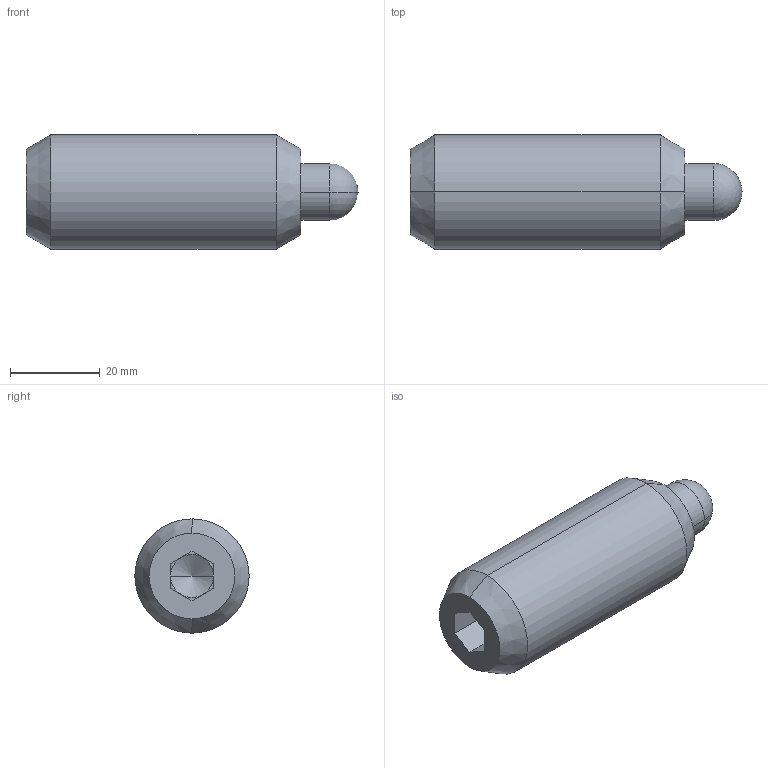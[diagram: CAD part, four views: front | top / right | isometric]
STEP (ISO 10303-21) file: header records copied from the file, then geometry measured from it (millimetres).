
FILE_DESCRIPTION (( 'STEP AP203' ), '1' );
FILE_NAME ('3B20.W384.step', '2009-10-12T14:05:16', ( 'Wixroyd' ), ( 'Wixroyd' ), 'SwSTEP 2.0', 'SolidWorks 2009', '' );
FILE_SCHEMA (( 'CONFIG_CONTROL_DESIGN' ));
Length unit declared in the file: inch
Products named in the file (3): Part1_3B20.W384; Part2_3B20.W384; 3B20.W384
Assembly tree (2 placements, depth 2):
  3B20.W384
    Part2_3B20.W384
    Part1_3B20.W384
Bounding box: 73.81 x 25.4 x 25.4 mm (x, y, z)
Volume: 22514.8 mm3; surface area: 9971 mm2
Topology: 2 solids, 2 shells, 43 faces, 92 edges, 52 vertices
Faces by surface type: plane 17, cylinder 12, cone 12, sphere 2
Entity records: 1413 total; most frequent: DIRECTION 220, CARTESIAN_POINT 184, ORIENTED_EDGE 172, EDGE_CURVE 86, AXIS2_PLACEMENT_3D 86, VERTEX_POINT 50, VECTOR 48, LINE 48
